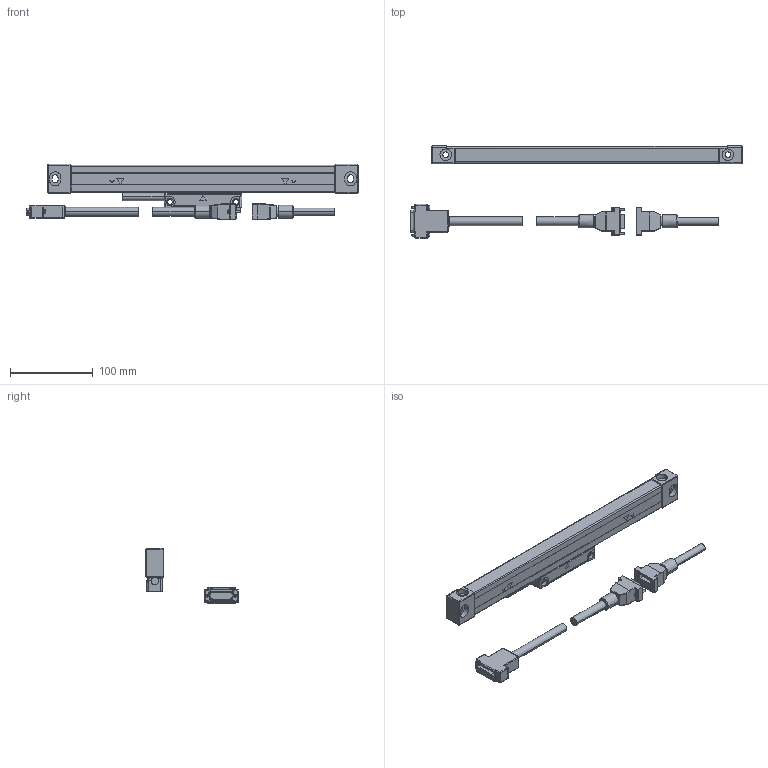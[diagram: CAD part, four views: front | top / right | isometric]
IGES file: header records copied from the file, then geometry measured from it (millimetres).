
Start section: Elysium IGES Interface
Global section: file name: 73H\\Utsu119s\kiyo_cad\data\3D\AT211\HP掲載用_201803\両端固定\AT211-200B.igs; native system: Creo Elements/Direct Modeling 18.1B  29-Sep-2012; preprocessor: Creo Element/Direct IGES_3D V2.2; author: Unknown; organization: Unknown; date: 20180315.104642; units: millimetre
Bounding box: 402.33 x 112.19 x 66.93 mm (x, y, z)
Volume: 334023.4 mm3; surface area: 84406.8 mm2
Topology: 5 solids, 9 shells, 1025 faces, 2486 edges, 1484 vertices
Faces by surface type: bspline 1025
